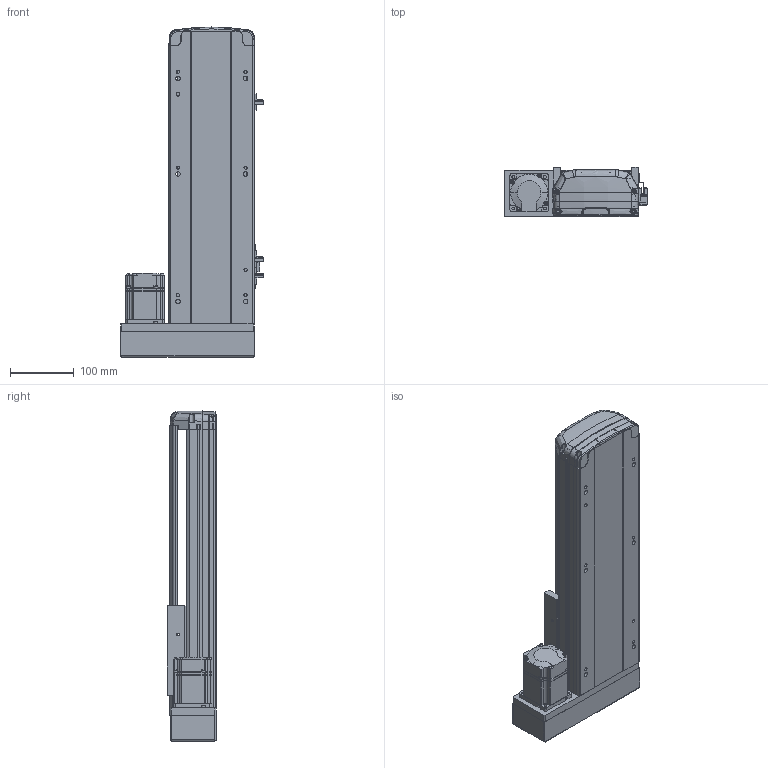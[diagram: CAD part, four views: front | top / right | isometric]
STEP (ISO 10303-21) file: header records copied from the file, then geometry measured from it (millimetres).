
FILE_DESCRIPTION (( 'STEP AP214' ), '1' );
FILE_NAME ('RTH14-XX-250-L-M20-C4.STEP', '2025-10-25T02:36:06', ( 'Microsoft' ), ( 'Microsoft' ), 'SwSTEP 2.0', 'SolidWorks 2018', '' );
FILE_SCHEMA (( 'AUTOMOTIVE_DESIGN' ));
Length unit declared in the file: millimetre
Products named in the file (10): RTH14-XX-250-L-M20-C4; N_RTH14-GY-001P^RTH14-XX-XX-L-M20-C4; N_RTH13-L-008-P20 萇儂啣酘蛌殏^RTH14-XX-XX-L-M20-C4; N_RTH14-M-007P奻裔^RTH14-XX-XX-L-M20-C4; N_RTH14-R-004-SFSR16賑釱^RTH14-XX-XX-L-M20-C4; N_RTH13-L-018 裔赽^RTH14-XX-XX-L-M20-C4; N_MSMD022P1AA_200W^RTH14-XX-XX-L-M20-C4; N_RTH14-M-011P菁釱^RTH14-XX-XX-L-M20-C4; N_OMRON EE-SX672 传感器^RTH14-XX-XX-L-M20-C4; N_RTH13-L-012感应片（外置）^RTH14-XX-XX-L-M20-C4
Assembly tree (11 placements, depth 2):
  RTH14-XX-250-L-M20-C4
    N_RTH14-M-011P菁釱^RTH14-XX-XX-L-M20-C4
    N_RTH14-M-007P奻裔^RTH14-XX-XX-L-M20-C4
    N_MSMD022P1AA_200W^RTH14-XX-XX-L-M20-C4
    N_RTH13-L-008-P20 萇儂啣酘蛌殏^RTH14-XX-XX-L-M20-C4
    N_RTH13-L-018 裔赽^RTH14-XX-XX-L-M20-C4
    N_RTH13-L-012感应片（外置）^RTH14-XX-XX-L-M20-C4
    N_OMRON EE-SX672 传感器^RTH14-XX-XX-L-M20-C4  x3
    N_RTH14-GY-001P^RTH14-XX-XX-L-M20-C4
    N_RTH14-R-004-SFSR16賑釱^RTH14-XX-XX-L-M20-C4
Bounding box: 224 x 78.03 x 517.49 mm (x, y, z)
Volume: 2640917.1 mm3; surface area: 633332 mm2
Topology: 11 solids, 11 shells, 1840 faces, 5135 edges, 3362 vertices
Faces by surface type: plane 985, cylinder 461, bspline 345, cone 45, torus 4
Entity records: 55881 total; most frequent: CARTESIAN_POINT 22729, ORIENTED_EDGE 7338, DIRECTION 5830, EDGE_CURVE 3669, VERTEX_POINT 2398, VECTOR 2126, LINE 2126, AXIS2_PLACEMENT_3D 1852
